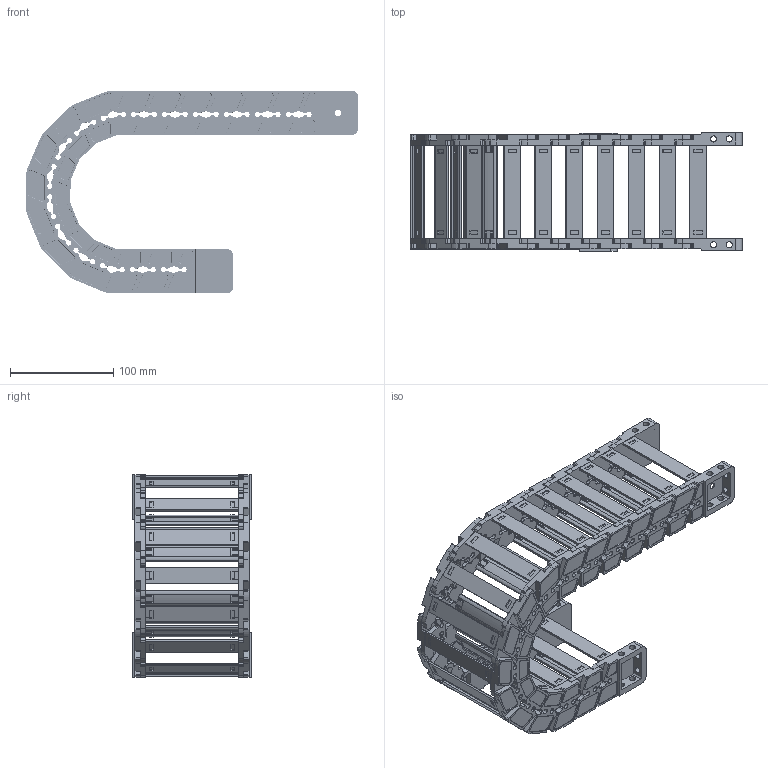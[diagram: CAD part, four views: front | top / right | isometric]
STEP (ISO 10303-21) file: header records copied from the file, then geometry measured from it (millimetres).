
FILE_DESCRIPTION((''),'2;1');
FILE_NAME('JY-35X90-R75_ASM','2025-01-05T19:08:39',('admin'),(''),'CREO PARAMETRIC BY PTC INC, 2021023','CREO PARAMETRIC BY PTC INC, 2021023','');
FILE_SCHEMA(('CONFIG_CONTROL_DESIGN'));
Length unit declared in the file: millimetre
Products named in the file (11): 35XL-L; YP; 35XL-R; ASM0001_ASM; 35-LTT-A-L; 35-LTT-A-R; 35XL-LTT-A_ASM; 35-LTT-B-L; 35-LTT-B-R; 35XL-LTT-B_ASM; JY-35X90-R75_ASM
Assembly tree (29 placements, depth 3):
  JY-35X90-R75_ASM
    ASM0001_ASM  x15
      35XL-L
      YP
      35XL-R
    35XL-LTT-A_ASM
      35-LTT-A-L
      YP  x2
      35-LTT-A-R
    35XL-LTT-B_ASM
      35-LTT-B-L
      YP  x2
      35-LTT-B-R
Bounding box: 321.72 x 114.5 x 196.34 mm (x, y, z)
Volume: 527206.3 mm3; surface area: 319185.3 mm2
Topology: 68 solids, 68 shells, 5536 faces, 16584 edges, 11192 vertices
Faces by surface type: plane 3130, cylinder 1830, cone 352, extrusion 128, bspline 96
Entity records: 27842 total; most frequent: CARTESIAN_POINT 6162, ORIENTED_EDGE 4640, DIRECTION 4353, EDGE_CURVE 2320, VERTEX_POINT 1568, AXIS2_PLACEMENT_3D 1468, VECTOR 1417, LINE 1401
